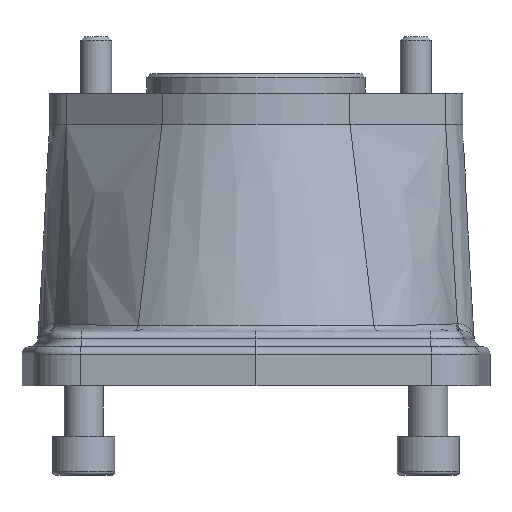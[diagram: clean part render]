
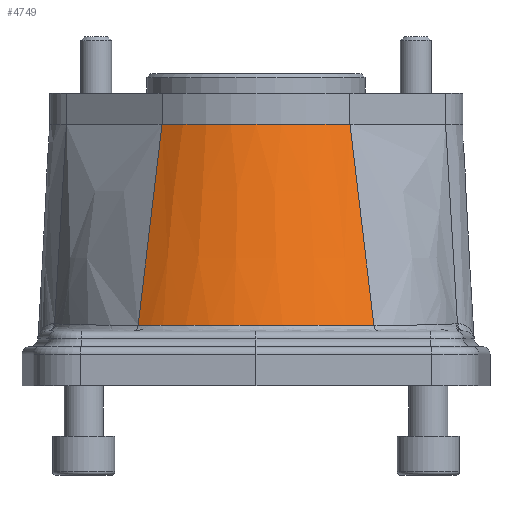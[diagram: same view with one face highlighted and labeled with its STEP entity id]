
A CAD part, left-side view. The second image highlights one B-rep face of the part: STEP entity #4749.
In plain terms, the highlighted free-form (B-spline) face has degree [3, 3] with [10, 4] control points.
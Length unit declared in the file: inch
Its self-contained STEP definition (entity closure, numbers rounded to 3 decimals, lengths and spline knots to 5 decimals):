
#32=B_SPLINE_SURFACE_WITH_KNOTS('',3,3,((#8849,#8850,#8851,#8852),(#8853,
#8854,#8855,#8856),(#8857,#8858,#8859,#8860),(#8861,#8862,#8863,#8864),
(#8865,#8866,#8867,#8868),(#8869,#8870,#8871,#8872),(#8873,#8874,#8875,
#8876),(#8877,#8878,#8879,#8880),(#8881,#8882,#8883,#8884),(#8885,#8886,
#8887,#8888)),.UNSPECIFIED.,.F.,.F.,.F.,(4,1,1,1,1,1,1,4),(4,4),(0.,0.14286,
0.28571,0.42857,0.57143,0.71429,
0.85714,1.),(0.,0.9037),.UNSPECIFIED.);
#49=B_SPLINE_CURVE_WITH_KNOTS('',3,(#8079,#8080,#8081,#8082,#8083,#8084,
#8085,#8086,#8087),.UNSPECIFIED.,.F.,.F.,(4,1,1,1,1,1,4),(0.,0.95311,
2.85934,3.81245,4.76556,5.24212,6.67179),
 .UNSPECIFIED.);
#85=B_SPLINE_CURVE_WITH_KNOTS('',3,(#8844,#8845,#8846,#8847),
 .UNSPECIFIED.,.F.,.F.,(4,4),(0.,0.9037),.UNSPECIFIED.);
#86=B_SPLINE_CURVE_WITH_KNOTS('',3,(#8890,#8891,#8892,#8893),
 .UNSPECIFIED.,.F.,.F.,(4,4),(0.,0.9037),.UNSPECIFIED.);
#651=FACE_OUTER_BOUND('',#958,.T.);
#958=EDGE_LOOP('',(#4019,#4020,#4021,#4022));
#1776=CIRCLE('',#5248,1.49606);
#2156=VERTEX_POINT('',#8007);
#2158=VERTEX_POINT('',#8067);
#2200=VERTEX_POINT('',#8843);
#2201=VERTEX_POINT('',#8889);
#2757=EDGE_CURVE('',#2156,#2158,#49,.T.);
#2819=EDGE_CURVE('',#2200,#2158,#85,.T.);
#2821=EDGE_CURVE('',#2201,#2156,#86,.T.);
#2822=EDGE_CURVE('',#2200,#2201,#1776,.T.);
#4019=ORIENTED_EDGE('',*,*,#2757,.F.);
#4020=ORIENTED_EDGE('',*,*,#2821,.F.);
#4021=ORIENTED_EDGE('',*,*,#2822,.F.);
#4022=ORIENTED_EDGE('',*,*,#2819,.T.);
#4749=ADVANCED_FACE('',(#651),#32,.T.);
#5248=AXIS2_PLACEMENT_3D('',#8894,#6443,#6444);
#6443=DIRECTION('center_axis',(0.,0.,1.));
#6444=DIRECTION('ref_axis',(-0.773,0.634,0.));
#8007=CARTESIAN_POINT('',(-1.64392,-1.19007,-2.34296));
#8067=CARTESIAN_POINT('',(-1.64392,1.19007,-2.34296));
#8079=CARTESIAN_POINT('Ctrl Pts',(-1.64392,-1.19007,-2.34296));
#8080=CARTESIAN_POINT('Ctrl Pts',(-1.71465,-1.09245,-2.34294));
#8081=CARTESIAN_POINT('Ctrl Pts',(-1.90243,-0.77753,
-2.3429));
#8082=CARTESIAN_POINT('Ctrl Pts',(-2.03263,-0.30423,-2.34287));
#8083=CARTESIAN_POINT('Ctrl Pts',(-2.03224,0.18534,-2.34287));
#8084=CARTESIAN_POINT('Ctrl Pts',(-1.97783,0.48274,-2.34288));
#8085=CARTESIAN_POINT('Ctrl Pts',(-1.86544,0.82922,-2.34291));
#8086=CARTESIAN_POINT('Ctrl Pts',(-1.75002,1.04364,-2.34293));
#8087=CARTESIAN_POINT('Ctrl Pts',(-1.64392,1.19007,-2.34296));
#8843=CARTESIAN_POINT('',(-1.15678,0.94872,-0.31496));
#8844=CARTESIAN_POINT('Ctrl Pts',(-1.15678,0.94872,-0.31496));
#8845=CARTESIAN_POINT('Ctrl Pts',(-1.31916,1.02917,-0.99096));
#8846=CARTESIAN_POINT('Ctrl Pts',(-1.48154,1.10962,-1.66696));
#8847=CARTESIAN_POINT('Ctrl Pts',(-1.64392,1.19007,-2.34296));
#8849=CARTESIAN_POINT('Ctrl Pts',(-1.15678,-0.94872,
-0.31496));
#8850=CARTESIAN_POINT('Ctrl Pts',(-1.31916,-1.02917,-0.99096));
#8851=CARTESIAN_POINT('Ctrl Pts',(-1.48154,-1.10962,-1.66696));
#8852=CARTESIAN_POINT('Ctrl Pts',(-1.64392,-1.19007,-2.34296));
#8853=CARTESIAN_POINT('Ctrl Pts',(-1.19446,-0.90277,
-0.31496));
#8854=CARTESIAN_POINT('Ctrl Pts',(-1.35866,-0.97868,
-0.99096));
#8855=CARTESIAN_POINT('Ctrl Pts',(-1.52287,-1.0546,-1.66696));
#8856=CARTESIAN_POINT('Ctrl Pts',(-1.68707,-1.13052,-2.34296));
#8857=CARTESIAN_POINT('Ctrl Pts',(-1.28546,-0.78068,
-0.31496));
#8858=CARTESIAN_POINT('Ctrl Pts',(-1.45398,-0.84495,
-0.99096));
#8859=CARTESIAN_POINT('Ctrl Pts',(-1.62249,-0.90921,
-1.66696));
#8860=CARTESIAN_POINT('Ctrl Pts',(-1.79101,-0.97347,
-2.34296));
#8861=CARTESIAN_POINT('Ctrl Pts',(-1.41834,-0.51197,
-0.31496));
#8862=CARTESIAN_POINT('Ctrl Pts',(-1.59286,-0.55295,
-0.99096));
#8863=CARTESIAN_POINT('Ctrl Pts',(-1.76739,-0.59392,
-1.66696));
#8864=CARTESIAN_POINT('Ctrl Pts',(-1.9419,-0.63489,
-2.34296));
#8865=CARTESIAN_POINT('Ctrl Pts',(-1.49931,-0.17867,
-0.31496));
#8866=CARTESIAN_POINT('Ctrl Pts',(-1.67735,-0.19273,
-0.99096));
#8867=CARTESIAN_POINT('Ctrl Pts',(-1.85538,-0.2068,
-1.66696));
#8868=CARTESIAN_POINT('Ctrl Pts',(-2.03342,-0.22086,
-2.34296));
#8869=CARTESIAN_POINT('Ctrl Pts',(-1.4995,0.17869,-0.31496));
#8870=CARTESIAN_POINT('Ctrl Pts',(-1.67754,0.19276,-0.99096));
#8871=CARTESIAN_POINT('Ctrl Pts',(-1.85559,0.20683,-1.66696));
#8872=CARTESIAN_POINT('Ctrl Pts',(-2.03363,0.22089,-2.34296));
#8873=CARTESIAN_POINT('Ctrl Pts',(-1.41821,0.51186,-0.31496));
#8874=CARTESIAN_POINT('Ctrl Pts',(-1.59273,0.55283,-0.99096));
#8875=CARTESIAN_POINT('Ctrl Pts',(-1.76724,0.5938,-1.66696));
#8876=CARTESIAN_POINT('Ctrl Pts',(-1.94175,0.63477,-2.34296));
#8877=CARTESIAN_POINT('Ctrl Pts',(-1.28553,0.78075,-0.31496));
#8878=CARTESIAN_POINT('Ctrl Pts',(-1.45405,0.84501,-0.99096));
#8879=CARTESIAN_POINT('Ctrl Pts',(-1.62257,0.90928,-1.66696));
#8880=CARTESIAN_POINT('Ctrl Pts',(-1.7911,0.97354,-2.34296));
#8881=CARTESIAN_POINT('Ctrl Pts',(-1.19446,0.90277,-0.31496));
#8882=CARTESIAN_POINT('Ctrl Pts',(-1.35867,0.97868,-0.99096));
#8883=CARTESIAN_POINT('Ctrl Pts',(-1.52287,1.0546,-1.66696));
#8884=CARTESIAN_POINT('Ctrl Pts',(-1.68707,1.13052,-2.34296));
#8885=CARTESIAN_POINT('Ctrl Pts',(-1.15678,0.94872,-0.31496));
#8886=CARTESIAN_POINT('Ctrl Pts',(-1.31916,1.02917,-0.99096));
#8887=CARTESIAN_POINT('Ctrl Pts',(-1.48154,1.10962,-1.66696));
#8888=CARTESIAN_POINT('Ctrl Pts',(-1.64392,1.19007,-2.34296));
#8889=CARTESIAN_POINT('',(-1.15678,-0.94872,-0.31496));
#8890=CARTESIAN_POINT('Ctrl Pts',(-1.15678,-0.94872,
-0.31496));
#8891=CARTESIAN_POINT('Ctrl Pts',(-1.31916,-1.02917,-0.99096));
#8892=CARTESIAN_POINT('Ctrl Pts',(-1.48154,-1.10962,-1.66696));
#8893=CARTESIAN_POINT('Ctrl Pts',(-1.64392,-1.19007,-2.34296));
#8894=CARTESIAN_POINT('Origin',(0.,0.,
-0.31496));
